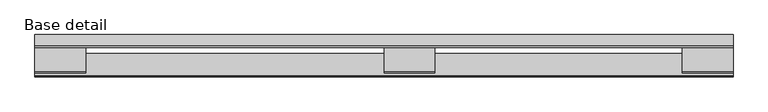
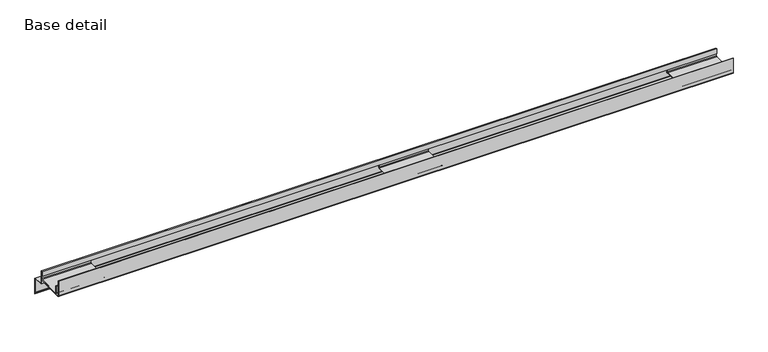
"""IFC4 building model written with IfcOpenShell, lengths in millimetres: beam geometry, QO-H-02_01 Base : Base detail."""

from ifc_helpers import new_model, si_unit, point, frame, frame_2d, origin, place, context, project, spatial, polyline, circle_curve, trimmed, segment, composite_curve, outline, extrude, source, transform, mapped, element, save


def base_detail_6ba0f2dc(model_context):
    return source(origin(), model_context, "Body", "SweptSolid", [
        extrude(outline(composite_curve([segment(polyline([(-34.0, 11.0), (-34.0, -10.0)]), True, "CONTINUOUS"), segment(trimmed(circle_curve(frame_2d((-38.0, -10.0)), 4.0), [point((-34.0, -10.0))], [point((-38.0, -14.0))], False, "CARTESIAN"), True, "CONTINUOUS"), segment(polyline([(-38.0, -14.0), (-108.0, -14.0)]), True, "CONTINUOUS"), segment(trimmed(circle_curve(frame_2d((-108.0, -10.0)), 4.0), [point((-108.0, -14.0))], [point((-112.0, -10.0))], False, "CARTESIAN"), True, "CONTINUOUS"), segment(polyline([(-112.0, -10.0), (-112.0, 11.0), (-110.0, 11.0), (-110.0, -10.0)]), True, "CONTINUOUS"), segment(trimmed(circle_curve(frame_2d((-108.0, -10.0)), 2.0), [point((-110.0, -10.0))], [point((-108.0, -12.0))], True, "CARTESIAN"), True, "CONTINUOUS"), segment(polyline([(-108.0, -12.0), (-38.0, -12.0)]), True, "CONTINUOUS"), segment(trimmed(circle_curve(frame_2d((-38.0, -10.0)), 2.0), [point((-38.0, -12.0))], [point((-36.0, -10.0))], True, "CARTESIAN"), True, "CONTINUOUS"), segment(polyline([(-36.0, -10.0), (-36.0, 11.0), (-34.0, 11.0)]), True, "CONTINUOUS")], self_intersect=False)), frame((838.0013276, 0.0, 0.0), z_axis=(1.0, 0.0, 0.0), x_axis=(0.0, 1.0, 0.0)), (0.0, 0.0, 1.0), 150.0),
        extrude(outline(composite_curve([segment(polyline([(-34.0, 11.0), (-34.0, -10.0)]), True, "CONTINUOUS"), segment(trimmed(circle_curve(frame_2d((-38.0, -10.0)), 4.0), [point((-34.0, -10.0))], [point((-38.0, -14.0))], False, "CARTESIAN"), True, "CONTINUOUS"), segment(polyline([(-38.0, -14.0), (-108.0, -14.0)]), True, "CONTINUOUS"), segment(trimmed(circle_curve(frame_2d((-108.0, -10.0)), 4.0), [point((-108.0, -14.0))], [point((-112.0, -10.0))], False, "CARTESIAN"), True, "CONTINUOUS"), segment(polyline([(-112.0, -10.0), (-112.0, 11.0), (-110.0, 11.0), (-110.0, -10.0)]), True, "CONTINUOUS"), segment(trimmed(circle_curve(frame_2d((-108.0, -10.0)), 2.0), [point((-110.0, -10.0))], [point((-108.0, -12.0))], True, "CARTESIAN"), True, "CONTINUOUS"), segment(polyline([(-108.0, -12.0), (-38.0, -12.0)]), True, "CONTINUOUS"), segment(trimmed(circle_curve(frame_2d((-38.0, -10.0)), 2.0), [point((-38.0, -12.0))], [point((-36.0, -10.0))], True, "CARTESIAN"), True, "CONTINUOUS"), segment(polyline([(-36.0, -10.0), (-36.0, 11.0), (-34.0, 11.0)]), True, "CONTINUOUS")], self_intersect=False)), frame((-40.4993361, 0.0, 0.0), z_axis=(1.0, 0.0, 0.0), x_axis=(0.0, 1.0, 0.0)), (0.0, 0.0, 1.0), 150.0),
        extrude(outline(composite_curve([segment(polyline([(-34.0, 11.0), (-34.0, -10.0)]), True, "CONTINUOUS"), segment(trimmed(circle_curve(frame_2d((-38.0, -10.0)), 4.0), [point((-34.0, -10.0))], [point((-38.0, -14.0))], False, "CARTESIAN"), True, "CONTINUOUS"), segment(polyline([(-38.0, -14.0), (-108.0, -14.0)]), True, "CONTINUOUS"), segment(trimmed(circle_curve(frame_2d((-108.0, -10.0)), 4.0), [point((-108.0, -14.0))], [point((-112.0, -10.0))], False, "CARTESIAN"), True, "CONTINUOUS"), segment(polyline([(-112.0, -10.0), (-112.0, 11.0), (-110.0, 11.0), (-110.0, -10.0)]), True, "CONTINUOUS"), segment(trimmed(circle_curve(frame_2d((-108.0, -10.0)), 2.0), [point((-110.0, -10.0))], [point((-108.0, -12.0))], True, "CARTESIAN"), True, "CONTINUOUS"), segment(polyline([(-108.0, -12.0), (-38.0, -12.0)]), True, "CONTINUOUS"), segment(trimmed(circle_curve(frame_2d((-38.0, -10.0)), 2.0), [point((-38.0, -12.0))], [point((-36.0, -10.0))], True, "CARTESIAN"), True, "CONTINUOUS"), segment(polyline([(-36.0, -10.0), (-36.0, 11.0), (-34.0, 11.0)]), True, "CONTINUOUS")], self_intersect=False)), frame((-1068.9999999, 0.0, 0.0), z_axis=(1.0, 0.0, 0.0), x_axis=(0.0, 1.0, 0.0)), (0.0, 0.0, 1.0), 150.0),
        extrude(outline(composite_curve([segment(trimmed(circle_curve(frame_2d((-121.5, -12.5)), 3.0), [point((-121.5, -15.5))], [point((-124.5, -12.5))], False, "CARTESIAN"), True, "CONTINUOUS"), segment(polyline([(-124.5, -12.5), (-124.5, 34.5), (-123.0, 34.5), (-123.0, -12.5)]), True, "CONTINUOUS"), segment(trimmed(circle_curve(frame_2d((-121.5, -12.5)), 1.5), [point((-123.0, -12.5))], [point((-121.5, -14.0))], True, "CARTESIAN"), True, "CONTINUOUS"), segment(polyline([(-121.5, -14.0), (-54.5, -14.0), (-54.5, -15.5), (-121.5, -15.5)]), True, "CONTINUOUS")], self_intersect=False)), frame((-1068.9999999, 0.0, 0.0), z_axis=(1.0, 0.0, 0.0), x_axis=(0.0, 1.0, 0.0)), (0.0, 0.0, 1.0), 2057.0013276),
        extrude(outline(polyline([(-37.5982754, 12.1857205), (-32.5982754, 12.1857205), (-32.5982754, -27.8142795), (0.2761496, -30.690419), (0.2761496, -80.690419), (-10.3304521, -70.0838173), (-9.7647666, -69.5181318), (-0.5238504, -78.7590481), (-0.5238504, -31.4234839), (-33.3982754, -28.5473444), (-33.3982754, 11.3857205), (-36.7982754, 11.3857205), (-36.7982754, -2.8142795), (-37.5982754, -2.8142795), (-37.5982754, 12.1857205)])), frame((-1068.9999999, 0.0, 0.0), z_axis=(1.0, 0.0, 0.0), x_axis=(0.0, 1.0, 0.0)), (0.0, 0.0, 1.0), 2057.0013276),
    ])


if __name__ == "__main__":
    model = new_model("IFC4")
    model_context = context("Model", 3, world=origin())
    ifc_project = project(units=[si_unit("LENGTHUNIT", "METRE", prefix="MILLI")], contexts=[model_context])
    site = spatial("IfcSite", under=ifc_project)
    building = spatial("IfcBuilding", under=site)
    placement = place(None, origin())
    base_detail_shape = base_detail_6ba0f2dc(model_context)
    element("IfcBeam", 1, ObjectType="QO-H-02_01 Base : Base detail", at=placement, inside=building, context=model_context, shape_type="MappedRepresentation", body=[
        mapped(base_detail_shape, transform((0.0, 0.0, 0.0), x_axis=(1.0, 0.0, 0.0), y_axis=(0.0, 1.0, 0.0), z_axis=(0.0, 0.0, 1.0))),
    ])
    save(model, "model.ifc")
